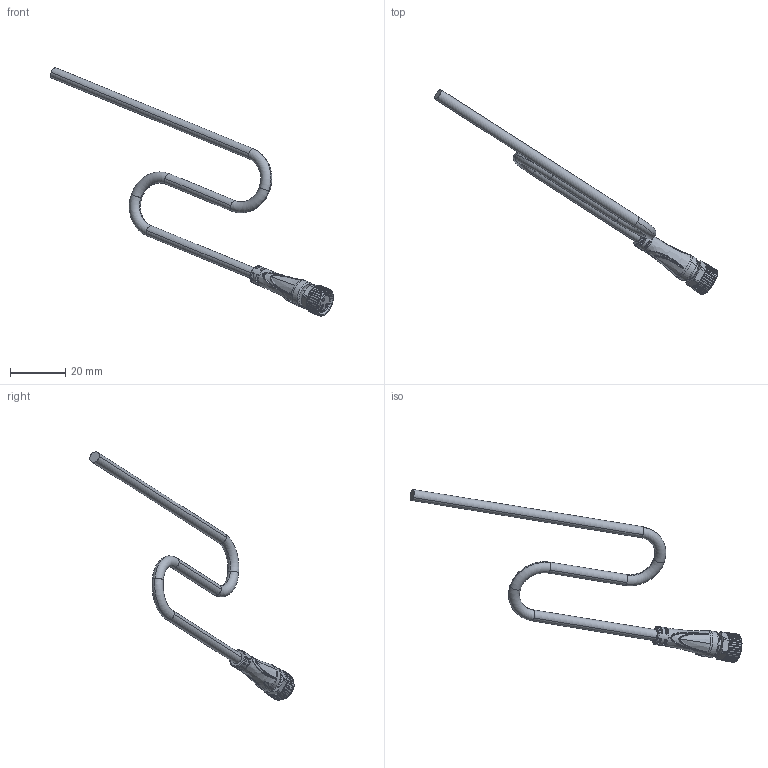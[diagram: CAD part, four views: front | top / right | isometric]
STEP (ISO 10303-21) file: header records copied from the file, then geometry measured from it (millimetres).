
FILE_DESCRIPTION (( 'STEP AP214' ), '1' );
FILE_NAME ('M8眻芛3P譫傷.STEP', '2025-01-14T01:35:53', ( 'Windows User' ), ( 'P R C' ), 'SwSTEP 2.0', 'SolidWorks 2023', '' );
FILE_SCHEMA (( 'AUTOMOTIVE_DESIGN' ));
Length unit declared in the file: millimetre
Products named in the file (7): M8-0°包胶_φ4; SD1705297-M8母端插针-A0; SD1705293-M8-3P母端插座-A0; SD1100822-M8滚花螺母（内螺纹对边9）-B0 带退刀槽; 导线_φ4.0; 密封圈; M8直头3P母端
Assembly tree (8 placements, depth 2):
  M8直头3P母端
    M8-0°包胶_φ4
    SD1100822-M8滚花螺母（内螺纹对边9）-B0 带退刀槽
    SD1705293-M8-3P母端插座-A0
    SD1705297-M8母端插针-A0  x3
    导线_φ4.0
    密封圈
Bounding box: 102.44 x 73.98 x 89.94 mm (x, y, z)
Volume: 4512.2 mm3; surface area: 5463.6 mm2
Topology: 8 solids, 8 shells, 1387 faces, 3720 edges, 2336 vertices
Faces by surface type: plane 566, cylinder 382, cone 194, bspline 172, torus 73
Entity records: 38740 total; most frequent: CARTESIAN_POINT 18116, ORIENTED_EDGE 4716, DIRECTION 3745, EDGE_CURVE 2358, VERTEX_POINT 1500, AXIS2_PLACEMENT_3D 1411, VECTOR 923, LINE 923
